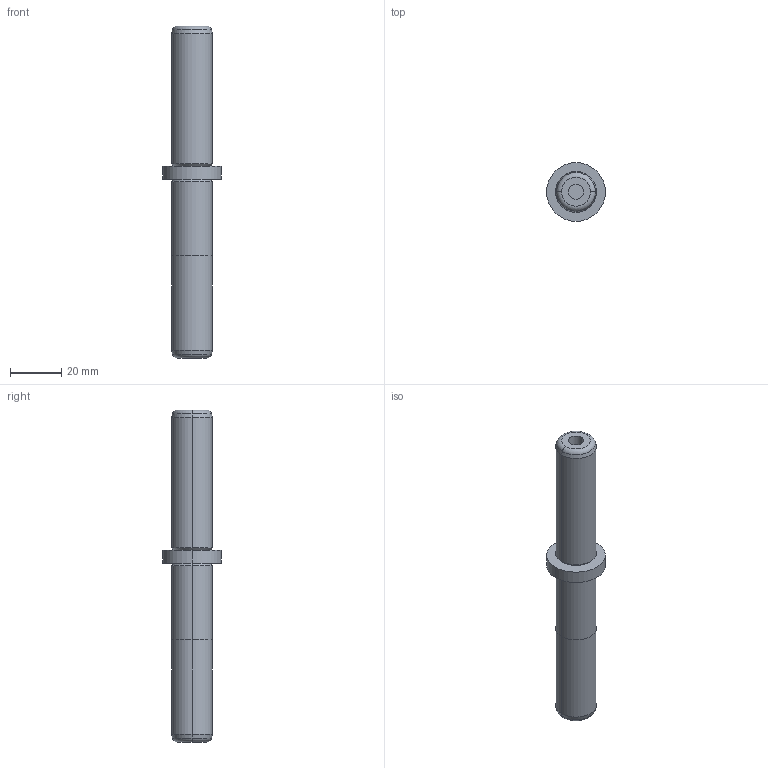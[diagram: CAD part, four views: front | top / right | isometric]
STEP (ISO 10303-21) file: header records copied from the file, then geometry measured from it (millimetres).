
FILE_DESCRIPTION(/* description */ (''),/* implementation_level */ '2;1');
FILE_NAME(/* name */ '3d_sgpwh16-70-60-b30_05317_r00.stp',/* time_stamp */ '2011-01-10T14:11:02+09:00',/* author */ ('MISUMI'),/* organization */ (''),/* preprocessor_version */ 'ST-DEVELOPER v11',/* originating_system */ 'UGS - NX 5.0',/* authorisation */ '');
FILE_SCHEMA (('CONFIG_CONTROL_DESIGN'));
Length unit declared in the file: millimetre
Products named in the file (1): 3d_sgpwh16-70-60-b30_05317_r00
Bounding box: 23 x 23 x 130 mm (x, y, z)
Volume: 25591.7 mm3; surface area: 8420 mm2
Topology: 1 solids, 1 shells, 30 faces, 58 edges, 34 vertices
Faces by surface type: cylinder 12, cone 8, plane 6, torus 4
Entity records: 854 total; most frequent: DIRECTION 158, CARTESIAN_POINT 123, ORIENTED_EDGE 116, AXIS2_PLACEMENT_3D 69, EDGE_CURVE 58, CIRCLE 38, EDGE_LOOP 34, VERTEX_POINT 34
